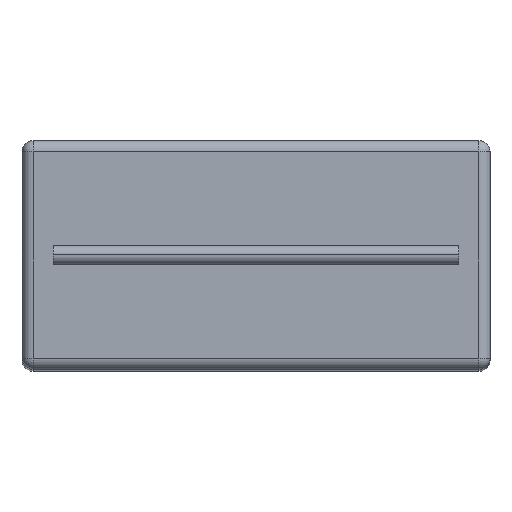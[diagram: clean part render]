
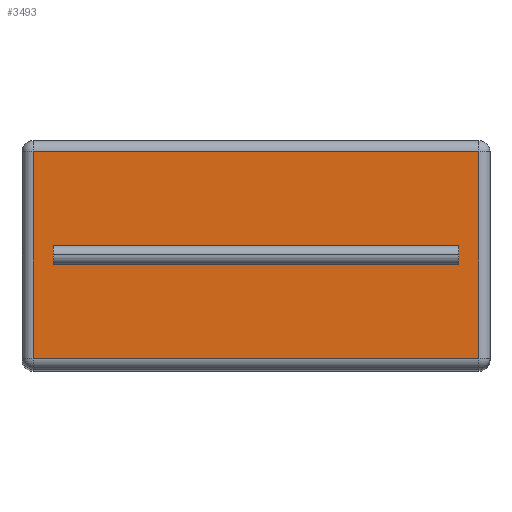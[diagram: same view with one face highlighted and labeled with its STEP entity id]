
A CAD part, top view. The second image highlights one B-rep face of the part: STEP entity #3493.
In plain terms, the highlighted planar face has unit normal (0, 0, 1).
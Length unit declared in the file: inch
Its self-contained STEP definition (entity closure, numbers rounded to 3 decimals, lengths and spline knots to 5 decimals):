
#190 = ORIENTED_EDGE ( 'NONE', *, *, #3499, .T. ) ;
#289 = VERTEX_POINT ( 'NONE', #359 ) ;
#359 = CARTESIAN_POINT ( 'NONE',  ( 1.17118, 0.84596, 0.54377 ) ) ;
#575 = VECTOR ( 'NONE', #3033, 39.37008 ) ;
#597 = ORIENTED_EDGE ( 'NONE', *, *, #5131, .T. ) ;
#792 = LINE ( 'NONE', #4229, #1407 ) ;
#1042 = LINE ( 'NONE', #2296, #4631 ) ;
#1141 = ORIENTED_EDGE ( 'NONE', *, *, #1192, .T. ) ;
#1146 = CARTESIAN_POINT ( 'NONE',  ( 1.20118, 1.40796, 0.54377 ) ) ;
#1149 = FACE_OUTER_BOUND ( 'NONE', #2632, .T. ) ;
#1192 = EDGE_CURVE ( 'NONE', #2388, #6186, #5457, .T. ) ;
#1285 = DIRECTION ( 'NONE',  ( 0., -1., 0. ) ) ;
#1302 = EDGE_CURVE ( 'NONE', #289, #3177, #1042, .T. ) ;
#1407 = VECTOR ( 'NONE', #1285, 39.37008 ) ;
#1549 = CARTESIAN_POINT ( 'NONE',  ( 1.20118, 0.81596, 0.54377 ) ) ;
#1615 = ORIENTED_EDGE ( 'NONE', *, *, #3578, .T. ) ;
#1758 = EDGE_CURVE ( 'NONE', #2766, #5330, #4756, .T. ) ;
#1785 = VECTOR ( 'NONE', #5238, 39.37008 ) ;
#1818 = DIRECTION ( 'NONE',  ( 0., 1., 0. ) ) ;
#1821 = EDGE_CURVE ( 'NONE', #5330, #6186, #6202, .T. ) ;
#1938 = ORIENTED_EDGE ( 'NONE', *, *, #1821, .F. ) ;
#1970 = VECTOR ( 'NONE', #6007, 39.37008 ) ;
#1979 = ORIENTED_EDGE ( 'NONE', *, *, #1758, .F. ) ;
#2018 = CARTESIAN_POINT ( 'NONE',  ( 0.01418, 1.15266, 0.54377 ) ) ;
#2137 = VERTEX_POINT ( 'NONE', #2511 ) ;
#2296 = CARTESIAN_POINT ( 'NONE',  ( 1.17118, 0.81596, 0.54377 ) ) ;
#2315 = CARTESIAN_POINT ( 'NONE',  ( 1.16418, 1.15266, 0.54377 ) ) ;
#2388 = VERTEX_POINT ( 'NONE', #3230 ) ;
#2511 = CARTESIAN_POINT ( 'NONE',  ( -0.04082, 0.84596, 0.54377 ) ) ;
#2555 = CARTESIAN_POINT ( 'NONE',  ( 1.16418, 1.10126, 0.54377 ) ) ;
#2632 = EDGE_LOOP ( 'NONE', ( #1615, #190, #3344, #6262 ) ) ;
#2666 = AXIS2_PLACEMENT_3D ( 'NONE', #1549, #4972, #3072 ) ;
#2730 = DIRECTION ( 'NONE',  ( -1., 0., 0. ) ) ;
#2766 = VERTEX_POINT ( 'NONE', #3879 ) ;
#2830 = CARTESIAN_POINT ( 'NONE',  ( 0.01418, 1.12696, 0.54377 ) ) ;
#3033 = DIRECTION ( 'NONE',  ( 1., 0., 0. ) ) ;
#3072 = DIRECTION ( 'NONE',  ( 1., 0., 0. ) ) ;
#3097 = DIRECTION ( 'NONE',  ( 0., -1., 0. ) ) ;
#3177 = VERTEX_POINT ( 'NONE', #5636 ) ;
#3230 = CARTESIAN_POINT ( 'NONE',  ( 1.11618, 1.10126, 0.54377 ) ) ;
#3344 = ORIENTED_EDGE ( 'NONE', *, *, #4960, .T. ) ;
#3412 = CARTESIAN_POINT ( 'NONE',  ( -0.04082, 1.40796, 0.54377 ) ) ;
#3440 = LINE ( 'NONE', #4491, #5006 ) ;
#3493 = ADVANCED_FACE ( 'NONE', ( #1149, #4212 ), #4539, .T. ) ;
#3499 = EDGE_CURVE ( 'NONE', #5898, #2137, #3440, .T. ) ;
#3578 = EDGE_CURVE ( 'NONE', #3177, #5898, #5555, .T. ) ;
#3879 = CARTESIAN_POINT ( 'NONE',  ( 1.11618, 1.15266, 0.54377 ) ) ;
#4049 = CARTESIAN_POINT ( 'NONE',  ( 1.20118, 0.84596, 0.54377 ) ) ;
#4212 = FACE_BOUND ( 'NONE', #5206, .T. ) ;
#4229 = CARTESIAN_POINT ( 'NONE',  ( 1.11618, 1.12696, 0.54377 ) ) ;
#4381 = VECTOR ( 'NONE', #5213, 39.37008 ) ;
#4491 = CARTESIAN_POINT ( 'NONE',  ( -0.04082, 0.81596, 0.54377 ) ) ;
#4539 = PLANE ( 'NONE',  #2666 ) ;
#4631 = VECTOR ( 'NONE', #1818, 39.37008 ) ;
#4756 = LINE ( 'NONE', #2315, #1785 ) ;
#4960 = EDGE_CURVE ( 'NONE', #2137, #289, #5743, .T. ) ;
#4972 = DIRECTION ( 'NONE',  ( 0., 0., 1. ) ) ;
#5006 = VECTOR ( 'NONE', #3097, 39.37008 ) ;
#5131 = EDGE_CURVE ( 'NONE', #2766, #2388, #792, .T. ) ;
#5206 = EDGE_LOOP ( 'NONE', ( #597, #1141, #1938, #1979 ) ) ;
#5213 = DIRECTION ( 'NONE',  ( 0., -1., 0. ) ) ;
#5238 = DIRECTION ( 'NONE',  ( -1., 0., 0. ) ) ;
#5330 = VERTEX_POINT ( 'NONE', #2018 ) ;
#5457 = LINE ( 'NONE', #2555, #6233 ) ;
#5555 = LINE ( 'NONE', #1146, #1970 ) ;
#5636 = CARTESIAN_POINT ( 'NONE',  ( 1.17118, 1.40796, 0.54377 ) ) ;
#5687 = CARTESIAN_POINT ( 'NONE',  ( 0.01418, 1.10126, 0.54377 ) ) ;
#5743 = LINE ( 'NONE', #4049, #575 ) ;
#5898 = VERTEX_POINT ( 'NONE', #3412 ) ;
#6007 = DIRECTION ( 'NONE',  ( -1., 0., 0. ) ) ;
#6186 = VERTEX_POINT ( 'NONE', #5687 ) ;
#6202 = LINE ( 'NONE', #2830, #4381 ) ;
#6233 = VECTOR ( 'NONE', #2730, 39.37008 ) ;
#6262 = ORIENTED_EDGE ( 'NONE', *, *, #1302, .T. ) ;
